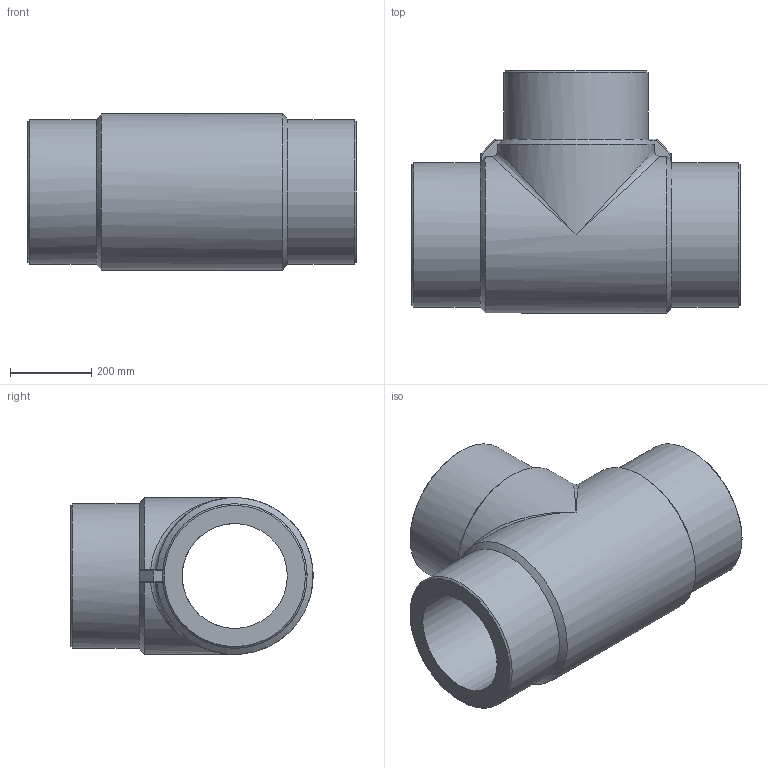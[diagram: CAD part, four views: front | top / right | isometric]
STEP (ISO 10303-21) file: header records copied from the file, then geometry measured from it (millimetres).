
FILE_DESCRIPTION(/* description */ ('Unknown'),/* implementation_level */ '2;1');
FILE_NAME(/* name */ 'TP355H',/* time_stamp */ '2022-06-06T16:42:26+02:00',/* author */ ('Unknown'),/* organization */ ('Unknown'),/* preprocessor_version */ 'ST-DEVELOPER v18.102',/* originating_system */ 'Solid Edge',/* authorisation */ 'Unknown');
FILE_SCHEMA (('AUTOMOTIVE_DESIGN {1 0 10303 214 3 1 1}'));
Length unit declared in the file: millimetre
Products named in the file (1): TP355H
Bounding box: 806 x 594.93 x 385 mm (x, y, z)
Volume: 55180478 mm3; surface area: 2121597.4 mm2
Topology: 1 solids, 1 shells, 57 faces, 150 edges, 82 vertices
Faces by surface type: cylinder 24, plane 13, cone 8, sphere 8, bspline 4
Full cylindrical faces by diameter (mm): 258 x2, 355 x3
Entity records: 1732 total; most frequent: CARTESIAN_POINT 495, DIRECTION 256, ORIENTED_EDGE 238, EDGE_CURVE 119, AXIS2_PLACEMENT_3D 108, VERTEX_POINT 75, EDGE_LOOP 70, FACE_BOUND 70
